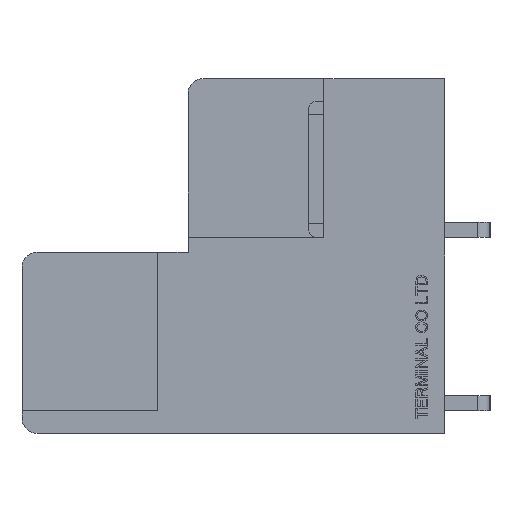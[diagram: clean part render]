
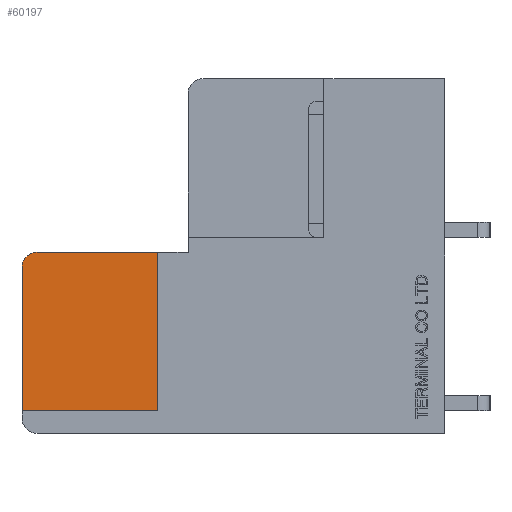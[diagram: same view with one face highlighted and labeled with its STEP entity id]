
A CAD part, left-side view. The second image highlights one B-rep face of the part: STEP entity #60197.
In plain terms, the highlighted planar face has unit normal (-1, 0, 0).
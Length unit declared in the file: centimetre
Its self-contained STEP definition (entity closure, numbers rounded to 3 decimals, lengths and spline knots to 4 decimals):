
#2480=CIRCLE('',#103070,0.1);
#3148=VERTEX_POINT('',#78485);
#3149=VERTEX_POINT('',#78486);
#3150=VERTEX_POINT('',#78488);
#3151=VERTEX_POINT('',#78490);
#3152=VERTEX_POINT('',#78492);
#9428=VECTOR('',#66563,1.);
#9429=VECTOR('',#66564,1.);
#9430=VECTOR('',#66565,1.);
#9431=VECTOR('',#66568,1.);
#16589=LINE('',#78484,#9428);
#16590=LINE('',#78487,#9429);
#16591=LINE('',#78489,#9430);
#16592=LINE('',#78493,#9431);
#23750=EDGE_CURVE('',#3148,#3149,#16589,.T.);
#23751=EDGE_CURVE('',#3150,#3148,#16590,.T.);
#23752=EDGE_CURVE('',#3151,#3150,#16591,.T.);
#23753=EDGE_CURVE('',#3152,#3151,#2480,.T.);
#23754=EDGE_CURVE('',#3149,#3152,#16592,.T.);
#33217=ORIENTED_EDGE('',*,*,#23750,.F.);
#33218=ORIENTED_EDGE('',*,*,#23751,.F.);
#33219=ORIENTED_EDGE('',*,*,#23752,.F.);
#33220=ORIENTED_EDGE('',*,*,#23753,.F.);
#33221=ORIENTED_EDGE('',*,*,#23754,.F.);
#52287=EDGE_LOOP('',(#33217,#33218,#33219,#33220,#33221));
#56242=FACE_BOUND('',#52287,.T.);
#60197=ADVANCED_FACE('',(#56242),#63850,.F.);
#63850=PLANE('',#103069);
#66562=DIRECTION('',(1.,0.,0.));
#66563=DIRECTION('',(0.,1.,0.));
#66564=DIRECTION('',(0.,0.,-1.));
#66565=DIRECTION('',(0.,-1.,0.));
#66566=DIRECTION('',(1.,0.,0.));
#66567=DIRECTION('',(0.,0.,-0.1));
#66568=DIRECTION('',(0.,0.,1.));
#78483=CARTESIAN_POINT('',(-2.86,-0.6604,0.));
#78484=CARTESIAN_POINT('',(-2.86,0.755,-0.45));
#78485=CARTESIAN_POINT('',(-2.86,-0.145,-0.45));
#78486=CARTESIAN_POINT('',(-2.86,0.755,-0.45));
#78487=CARTESIAN_POINT('',(-2.86,-0.145,-0.45));
#78488=CARTESIAN_POINT('',(-2.86,-0.145,0.6));
#78489=CARTESIAN_POINT('',(-2.86,0.655,0.6));
#78490=CARTESIAN_POINT('',(-2.86,0.655,0.6));
#78491=CARTESIAN_POINT('',(-2.86,0.655,0.5));
#78492=CARTESIAN_POINT('',(-2.86,0.755,0.5));
#78493=CARTESIAN_POINT('',(-2.86,0.755,-0.5));
#103069=AXIS2_PLACEMENT_3D('',#78483,#66562,$);
#103070=AXIS2_PLACEMENT_3D('',#78491,#66566,#66567);
